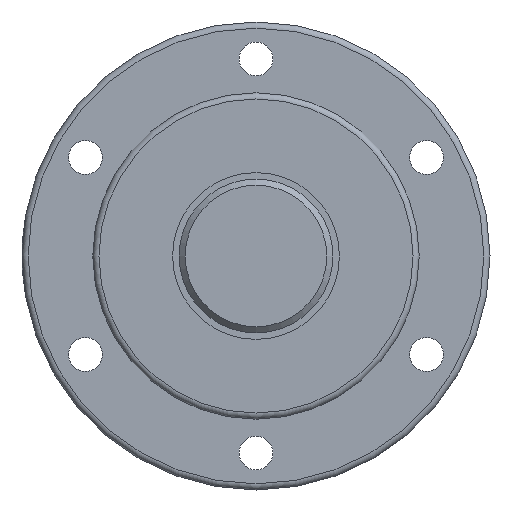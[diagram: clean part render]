
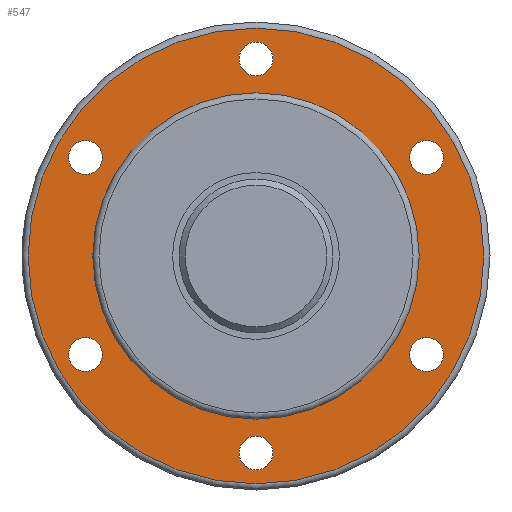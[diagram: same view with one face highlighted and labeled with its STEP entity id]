
A CAD part, left-side view. The second image highlights one B-rep face of the part: STEP entity #547.
In plain terms, the highlighted planar face has unit normal (-1, 0, 0).
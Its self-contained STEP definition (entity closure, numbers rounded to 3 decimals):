
#61=PLANE('',#615);
#92=ORIENTED_EDGE('',*,*,#202,.T.);
#93=ORIENTED_EDGE('',*,*,#203,.F.);
#94=ORIENTED_EDGE('',*,*,#204,.F.);
#95=ORIENTED_EDGE('',*,*,#205,.F.);
#96=ORIENTED_EDGE('',*,*,#206,.F.);
#97=ORIENTED_EDGE('',*,*,#207,.F.);
#98=ORIENTED_EDGE('',*,*,#208,.F.);
#99=ORIENTED_EDGE('',*,*,#209,.F.);
#202=EDGE_CURVE('',#257,#257,#303,.T.);
#203=EDGE_CURVE('',#258,#258,#304,.T.);
#204=EDGE_CURVE('',#259,#259,#305,.T.);
#205=EDGE_CURVE('',#260,#260,#306,.T.);
#206=EDGE_CURVE('',#261,#261,#307,.T.);
#207=EDGE_CURVE('',#262,#262,#308,.T.);
#208=EDGE_CURVE('',#263,#263,#309,.T.);
#209=EDGE_CURVE('',#264,#264,#310,.T.);
#257=VERTEX_POINT('',#922);
#258=VERTEX_POINT('',#924);
#259=VERTEX_POINT('',#926);
#260=VERTEX_POINT('',#928);
#261=VERTEX_POINT('',#930);
#262=VERTEX_POINT('',#932);
#263=VERTEX_POINT('',#934);
#264=VERTEX_POINT('',#936);
#303=CIRCLE('',#616,26.5);
#304=CIRCLE('',#617,37.);
#305=CIRCLE('',#618,2.75);
#306=CIRCLE('',#619,2.75);
#307=CIRCLE('',#620,2.75);
#308=CIRCLE('',#621,2.75);
#309=CIRCLE('',#622,2.75);
#310=CIRCLE('',#623,2.75);
#348=EDGE_LOOP('',(#92));
#349=EDGE_LOOP('',(#93));
#350=EDGE_LOOP('',(#94));
#351=EDGE_LOOP('',(#95));
#352=EDGE_LOOP('',(#96));
#353=EDGE_LOOP('',(#97));
#354=EDGE_LOOP('',(#98));
#355=EDGE_LOOP('',(#99));
#439=FACE_BOUND('',#348,.T.);
#440=FACE_BOUND('',#349,.T.);
#441=FACE_BOUND('',#350,.T.);
#442=FACE_BOUND('',#351,.T.);
#443=FACE_BOUND('',#352,.T.);
#444=FACE_BOUND('',#353,.T.);
#445=FACE_BOUND('',#354,.T.);
#446=FACE_BOUND('',#355,.T.);
#547=ADVANCED_FACE('',(#439,#440,#441,#442,#443,#444,#445,#446),#61,.T.);
#615=AXIS2_PLACEMENT_3D('',#920,#717,#718);
#616=AXIS2_PLACEMENT_3D('',#921,#719,#720);
#617=AXIS2_PLACEMENT_3D('',#923,#721,#722);
#618=AXIS2_PLACEMENT_3D('',#925,#723,#724);
#619=AXIS2_PLACEMENT_3D('',#927,#725,#726);
#620=AXIS2_PLACEMENT_3D('',#929,#727,#728);
#621=AXIS2_PLACEMENT_3D('',#931,#729,#730);
#622=AXIS2_PLACEMENT_3D('',#933,#731,#732);
#623=AXIS2_PLACEMENT_3D('',#935,#733,#734);
#717=DIRECTION('',(-1.,0.,0.));
#718=DIRECTION('',(0.,0.,1.));
#719=DIRECTION('',(1.,0.,0.));
#720=DIRECTION('',(0.,0.,-1.));
#721=DIRECTION('',(1.,0.,0.));
#722=DIRECTION('',(0.,0.,-1.));
#723=DIRECTION('',(-1.,0.,0.));
#724=DIRECTION('',(0.,0.,1.));
#725=DIRECTION('',(-1.,0.,0.));
#726=DIRECTION('',(0.,0.,1.));
#727=DIRECTION('',(-1.,0.,0.));
#728=DIRECTION('',(0.,0.,1.));
#729=DIRECTION('',(-1.,0.,0.));
#730=DIRECTION('',(0.,0.,1.));
#731=DIRECTION('',(-1.,0.,0.));
#732=DIRECTION('',(0.,0.,1.));
#733=DIRECTION('',(-1.,0.,0.));
#734=DIRECTION('',(0.,0.,1.));
#920=CARTESIAN_POINT('',(-11.,-66.137,0.));
#921=CARTESIAN_POINT('',(-11.,0.,0.));
#922=CARTESIAN_POINT('',(-11.,0.,-26.5));
#923=CARTESIAN_POINT('',(-11.,0.,0.));
#924=CARTESIAN_POINT('',(-11.,0.,-37.));
#925=CARTESIAN_POINT('',(-11.,-27.713,16.));
#926=CARTESIAN_POINT('',(-11.,-27.713,18.75));
#927=CARTESIAN_POINT('',(-11.,0.,32.));
#928=CARTESIAN_POINT('',(-11.,0.,34.75));
#929=CARTESIAN_POINT('',(-11.,27.713,16.));
#930=CARTESIAN_POINT('',(-11.,27.713,18.75));
#931=CARTESIAN_POINT('',(-11.,0.,-32.));
#932=CARTESIAN_POINT('',(-11.,0.,-29.25));
#933=CARTESIAN_POINT('',(-11.,27.713,-16.));
#934=CARTESIAN_POINT('',(-11.,27.713,-13.25));
#935=CARTESIAN_POINT('',(-11.,-27.713,-16.));
#936=CARTESIAN_POINT('',(-11.,-27.713,-13.25));
